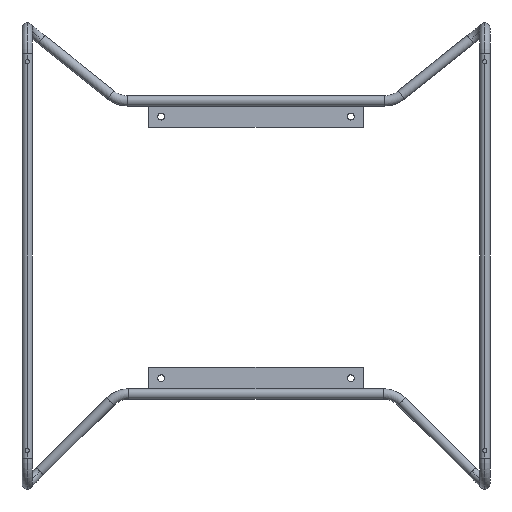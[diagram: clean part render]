
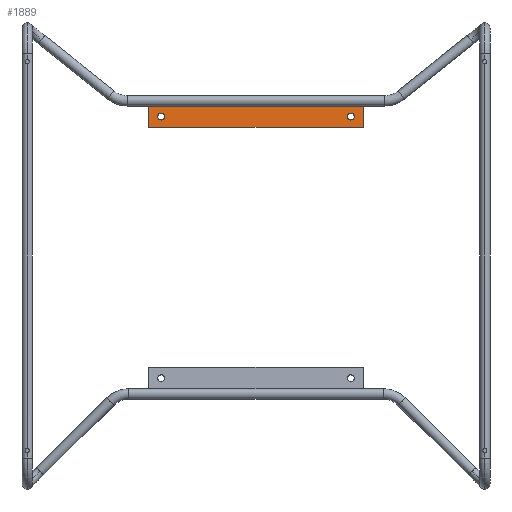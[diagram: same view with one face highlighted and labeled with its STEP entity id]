
A CAD part, front view. The second image highlights one B-rep face of the part: STEP entity #1889.
In plain terms, the highlighted planar face has unit normal (0, -0.999, 0.05).
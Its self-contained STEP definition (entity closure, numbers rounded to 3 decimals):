
#15 = CARTESIAN_POINT ( 'NONE',  ( -123., 326.07, 141.261 ) ) ;
#26 = DIRECTION ( 'NONE',  ( 0., -0.999, 0.05 ) ) ;
#31 = DIRECTION ( 'NONE',  ( 0., 0.999, -0.05 ) ) ;
#61 = PLANE ( 'NONE',  #1188 ) ;
#71 = EDGE_CURVE ( 'NONE', #396, #2416, #2351, .T. ) ;
#76 = FACE_BOUND ( 'NONE', #2129, .T. ) ;
#85 = DIRECTION ( 'NONE',  ( 0., -0.05, -0.999 ) ) ;
#94 = CARTESIAN_POINT ( 'NONE',  ( 125., 326.07, 141.261 ) ) ;
#154 = CARTESIAN_POINT ( 'NONE',  ( 125., 327.218, 164.232 ) ) ;
#166 = CARTESIAN_POINT ( 'NONE',  ( -125., 326.07, 141.261 ) ) ;
#249 = CARTESIAN_POINT ( 'NONE',  ( -123., 325.97, 139.263 ) ) ;
#256 = LINE ( 'NONE', #1409, #608 ) ;
#285 = CIRCLE ( 'NONE', #1078, 2. ) ;
#302 = CARTESIAN_POINT ( 'NONE',  ( 123., 327.119, 162.235 ) ) ;
#313 = FACE_OUTER_BOUND ( 'NONE', #351, .T. ) ;
#324 = ORIENTED_EDGE ( 'NONE', *, *, #2400, .T. ) ;
#338 = ORIENTED_EDGE ( 'NONE', *, *, #1744, .F. ) ;
#343 = ORIENTED_EDGE ( 'NONE', *, *, #1548, .F. ) ;
#351 = EDGE_LOOP ( 'NONE', ( #489, #936, #1351, #1846, #324, #343, #338, #2529 ) ) ;
#367 = CIRCLE ( 'NONE', #2865, 2. ) ;
#394 = LINE ( 'NONE', #154, #1429 ) ;
#396 = VERTEX_POINT ( 'NONE', #776 ) ;
#489 = ORIENTED_EDGE ( 'NONE', *, *, #2173, .T. ) ;
#494 = CIRCLE ( 'NONE', #1089, 4. ) ;
#499 = DIRECTION ( 'NONE',  ( 0., -0.999, 0.05 ) ) ;
#608 = VECTOR ( 'NONE', #2350, 1000. ) ;
#615 = DIRECTION ( 'NONE',  ( 0., -0.05, -0.999 ) ) ;
#751 = DIRECTION ( 'NONE',  ( 0., -0.05, -0.999 ) ) ;
#765 = CARTESIAN_POINT ( 'NONE',  ( -110., 326.395, 147.753 ) ) ;
#776 = CARTESIAN_POINT ( 'NONE',  ( 110., 326.395, 147.753 ) ) ;
#806 = VECTOR ( 'NONE', #2196, 1000. ) ;
#847 = EDGE_CURVE ( 'NONE', #2416, #396, #494, .T. ) ;
#868 = DIRECTION ( 'NONE',  ( 0., -0.05, -0.999 ) ) ;
#936 = ORIENTED_EDGE ( 'NONE', *, *, #1219, .T. ) ;
#958 = EDGE_LOOP ( 'NONE', ( #2402, #1978 ) ) ;
#990 = FACE_BOUND ( 'NONE', #958, .T. ) ;
#1009 = CARTESIAN_POINT ( 'NONE',  ( 0., 318.211, -15.911 ) ) ;
#1029 = AXIS2_PLACEMENT_3D ( 'NONE', #2212, #2900, #751 ) ;
#1045 = DIRECTION ( 'NONE',  ( 0., -0.05, -0.999 ) ) ;
#1056 = VERTEX_POINT ( 'NONE', #2214 ) ;
#1078 = AXIS2_PLACEMENT_3D ( 'NONE', #1975, #31, #2623 ) ;
#1089 = AXIS2_PLACEMENT_3D ( 'NONE', #2201, #2679, #85 ) ;
#1098 = VERTEX_POINT ( 'NONE', #1452 ) ;
#1103 = CIRCLE ( 'NONE', #2813, 4. ) ;
#1188 = AXIS2_PLACEMENT_3D ( 'NONE', #1009, #2894, #2880 ) ;
#1205 = CARTESIAN_POINT ( 'NONE',  ( -110., 326.594, 151.748 ) ) ;
#1219 = EDGE_CURVE ( 'NONE', #1945, #1801, #1650, .T. ) ;
#1238 = DIRECTION ( 'NONE',  ( 0., -0.05, -0.999 ) ) ;
#1249 = CARTESIAN_POINT ( 'NONE',  ( -123., 327.218, 164.232 ) ) ;
#1252 = DIRECTION ( 'NONE',  ( 0., 0.999, -0.05 ) ) ;
#1287 = CARTESIAN_POINT ( 'NONE',  ( -123., 327.119, 162.235 ) ) ;
#1293 = AXIS2_PLACEMENT_3D ( 'NONE', #15, #26, #2844 ) ;
#1298 = CIRCLE ( 'NONE', #1293, 2. ) ;
#1315 = CIRCLE ( 'NONE', #2494, 4. ) ;
#1351 = ORIENTED_EDGE ( 'NONE', *, *, #1658, .T. ) ;
#1366 = VERTEX_POINT ( 'NONE', #249 ) ;
#1409 = CARTESIAN_POINT ( 'NONE',  ( 0., 327.218, 164.232 ) ) ;
#1429 = VECTOR ( 'NONE', #868, 1000. ) ;
#1452 = CARTESIAN_POINT ( 'NONE',  ( 123., 327.218, 164.232 ) ) ;
#1469 = CARTESIAN_POINT ( 'NONE',  ( 110., 326.794, 155.743 ) ) ;
#1474 = DIRECTION ( 'NONE',  ( 0., -0.999, 0.05 ) ) ;
#1494 = EDGE_CURVE ( 'NONE', #2674, #1774, #1315, .T. ) ;
#1544 = VERTEX_POINT ( 'NONE', #94 ) ;
#1548 = EDGE_CURVE ( 'NONE', #1544, #1056, #285, .T. ) ;
#1650 = CIRCLE ( 'NONE', #2297, 2. ) ;
#1658 = EDGE_CURVE ( 'NONE', #1801, #3006, #2487, .T. ) ;
#1702 = DIRECTION ( 'NONE',  ( 0., -0.05, -0.999 ) ) ;
#1744 = EDGE_CURVE ( 'NONE', #1870, #1544, #394, .T. ) ;
#1774 = VERTEX_POINT ( 'NONE', #2528 ) ;
#1789 = ORIENTED_EDGE ( 'NONE', *, *, #1494, .F. ) ;
#1801 = VERTEX_POINT ( 'NONE', #2296 ) ;
#1846 = ORIENTED_EDGE ( 'NONE', *, *, #2810, .T. ) ;
#1870 = VERTEX_POINT ( 'NONE', #2668 ) ;
#1889 = ADVANCED_FACE ( 'NONE', ( #76, #313, #990 ), #61, .T. ) ;
#1945 = VERTEX_POINT ( 'NONE', #1249 ) ;
#1975 = CARTESIAN_POINT ( 'NONE',  ( 123., 326.07, 141.261 ) ) ;
#1978 = ORIENTED_EDGE ( 'NONE', *, *, #847, .T. ) ;
#1981 = LINE ( 'NONE', #2231, #806 ) ;
#2129 = EDGE_LOOP ( 'NONE', ( #1789, #2276 ) ) ;
#2173 = EDGE_CURVE ( 'NONE', #1098, #1945, #256, .T. ) ;
#2196 = DIRECTION ( 'NONE',  ( 1., 0., 0. ) ) ;
#2201 = CARTESIAN_POINT ( 'NONE',  ( 110., 326.594, 151.748 ) ) ;
#2212 = CARTESIAN_POINT ( 'NONE',  ( 110., 326.594, 151.748 ) ) ;
#2214 = CARTESIAN_POINT ( 'NONE',  ( 123., 325.97, 139.263 ) ) ;
#2230 = DIRECTION ( 'NONE',  ( 0., -0.05, -0.999 ) ) ;
#2231 = CARTESIAN_POINT ( 'NONE',  ( -125., 325.97, 139.263 ) ) ;
#2276 = ORIENTED_EDGE ( 'NONE', *, *, #2892, .F. ) ;
#2296 = CARTESIAN_POINT ( 'NONE',  ( -125., 327.119, 162.235 ) ) ;
#2297 = AXIS2_PLACEMENT_3D ( 'NONE', #1287, #2730, #2230 ) ;
#2350 = DIRECTION ( 'NONE',  ( -1., 0., 0. ) ) ;
#2351 = CIRCLE ( 'NONE', #1029, 4. ) ;
#2400 = EDGE_CURVE ( 'NONE', #1366, #1056, #1981, .T. ) ;
#2402 = ORIENTED_EDGE ( 'NONE', *, *, #71, .T. ) ;
#2416 = VERTEX_POINT ( 'NONE', #1469 ) ;
#2487 = LINE ( 'NONE', #2970, #2954 ) ;
#2494 = AXIS2_PLACEMENT_3D ( 'NONE', #1205, #499, #1045 ) ;
#2528 = CARTESIAN_POINT ( 'NONE',  ( -110., 326.794, 155.743 ) ) ;
#2529 = ORIENTED_EDGE ( 'NONE', *, *, #2672, .F. ) ;
#2623 = DIRECTION ( 'NONE',  ( 0., -0.05, -0.999 ) ) ;
#2650 = CARTESIAN_POINT ( 'NONE',  ( -110., 326.594, 151.748 ) ) ;
#2668 = CARTESIAN_POINT ( 'NONE',  ( 125., 327.119, 162.235 ) ) ;
#2672 = EDGE_CURVE ( 'NONE', #1098, #1870, #367, .T. ) ;
#2674 = VERTEX_POINT ( 'NONE', #765 ) ;
#2679 = DIRECTION ( 'NONE',  ( 0., 0.999, -0.05 ) ) ;
#2730 = DIRECTION ( 'NONE',  ( 0., -0.999, 0.05 ) ) ;
#2810 = EDGE_CURVE ( 'NONE', #3006, #1366, #1298, .T. ) ;
#2813 = AXIS2_PLACEMENT_3D ( 'NONE', #2650, #1474, #1702 ) ;
#2844 = DIRECTION ( 'NONE',  ( 0., -0.05, -0.999 ) ) ;
#2865 = AXIS2_PLACEMENT_3D ( 'NONE', #302, #1252, #1238 ) ;
#2880 = DIRECTION ( 'NONE',  ( 0., -0.05, -0.999 ) ) ;
#2892 = EDGE_CURVE ( 'NONE', #1774, #2674, #1103, .T. ) ;
#2894 = DIRECTION ( 'NONE',  ( 0., -0.999, 0.05 ) ) ;
#2900 = DIRECTION ( 'NONE',  ( 0., 0.999, -0.05 ) ) ;
#2954 = VECTOR ( 'NONE', #615, 1000. ) ;
#2970 = CARTESIAN_POINT ( 'NONE',  ( -125., 327.218, 164.232 ) ) ;
#3006 = VERTEX_POINT ( 'NONE', #166 ) ;
